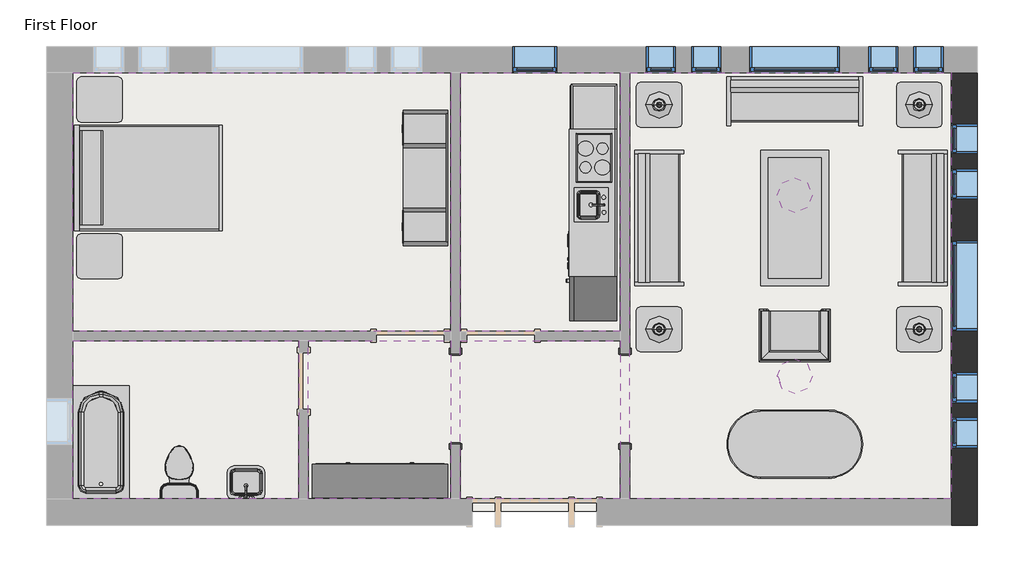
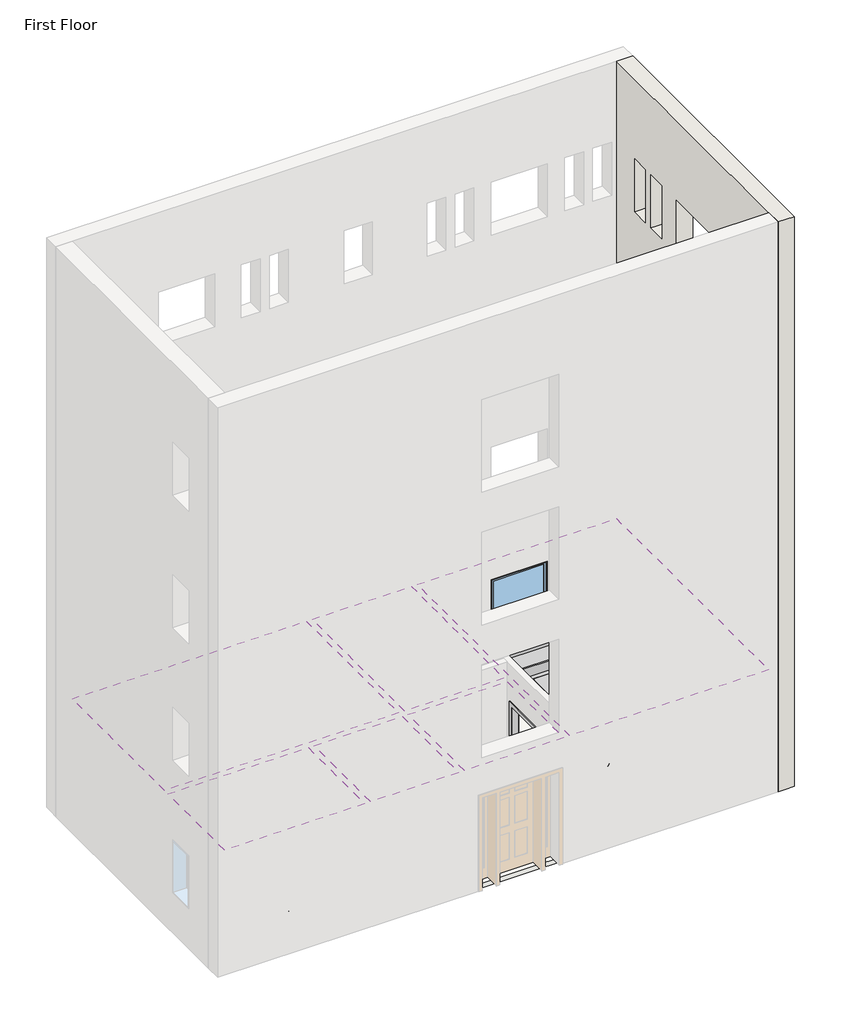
# One storey, part 2 of 2: 15 furniture elements, 11 windows, 6 coverings, 6 light fixtures, 3 flow terminals, 3 proxies, 1 slab, 1 wall.
"""IFC4 building model written with IfcOpenShell, lengths in millimetres."""

from ifc_helpers import new_model, si_unit, frame, origin, place, context, project, spatial, polyline, outline, extrude, faceted_brep, transform, mapped, element, save
from components import proxy_64a468c4, proxy_f44482cc, flow_terminal_0aeb31e3, toilet_domestic_3d_toilet_domestic_3d_f7549cf7, toilet_domestic_3d_toilet_domestic_3d_183bbd19, tub_rectangular_3d_tub_rectangular_3d_0be0b2e8, furniture_096e7f55, chair_corbu_chair_corbu_2764bdef, furniture_7c473f12, furniture_ddc78764, furniture_4ef38d96, furniture_cd93a443, furniture_8c0aa46a, furniture_3a588284, furniture_1befe2a2, pendant_disk_c68bffb6, table_lamp_1_100_watt_incandescent_6e8cd8b1, window_da97879f, window_d61ef850, window_60baf983, window_6eb97611

model = new_model("IFC4")

# Units and contexts
model_context = context("Model", 3, world=origin())
ifc_project = project(units=[si_unit("LENGTHUNIT", "METRE", prefix="MILLI")], contexts=[model_context])

# Site, building, storey
site = spatial("IfcSite", under=ifc_project)
building = spatial("IfcBuilding", under=site)
storey = spatial("IfcBuildingStorey", under=building, Name="First Floor", Elevation=0.0)

# Proxies
placement = place(None, origin())
proxy_shape = proxy_64a468c4(model_context)
element("IfcBuildingElementProxy", 1, Name="Kitchenette - Medium : 8'6\"", ObjectType="Kitchenette - Medium : 8'6\"", at=placement, inside=storey, context=model_context, shape_type="MappedRepresentation", body=[
    mapped(proxy_shape, transform((-3887.7589563, 8837.7956433, 0.0), x_axis=(0.0, -1.0, 0.0), y_axis=(1.0, 0.0, 0.0), z_axis=(0.0, 0.0, 1.0))),
])
proxy_2_shape = proxy_f44482cc(model_context)
element("IfcBuildingElementProxy", 2, Name="Opening-Cased : 48\" x 84\"", ObjectType="Opening-Cased : 48\" x 84\"", at=placement, inside=storey, context=model_context, shape_type="MappedRepresentation", body=[
    mapped(proxy_2_shape, transform((-3773.4589563, 5882.4203434, 0.0), x_axis=(0.0, 1.0, 0.0), y_axis=(-1.0, 0.0, 0.0), z_axis=(0.0, 0.0, 1.0))),
])
element("IfcBuildingElementProxy", 3, Name="Opening-Cased : 48\" x 84\"", ObjectType="Opening-Cased : 48\" x 84\"", at=placement, inside=storey, context=model_context, shape_type="MappedRepresentation", body=[
    mapped(proxy_2_shape, transform((-6059.4589563, 5866.04303, 0.0), x_axis=(0.0, -1.0, 0.0), y_axis=(1.0, 0.0, 0.0), z_axis=(0.0, 0.0, 1.0))),
])

# Coverings
element("IfcCovering", 4, ObjectType="GWB on Mtl. Stud", at=placement, inside=storey, context=model_context, shape_type="SweptSolid", body=[
    extrude(outline(polyline([(-11217.2464563, 10270.0191867), (-6122.9589563, 10270.0191867), (-6122.9589563, 6787.0441867), (-11217.2464563, 6787.0441867), (-11217.2464563, 10270.0191867)])), frame((0.0, 0.0, 2590.8), z_axis=(0.0, 0.0, 1.0), x_axis=(1.0, 0.0, 0.0)), (0.0, 0.0, 1.0), 107.95),
])
element("IfcCovering", 5, ObjectType="GWB on Mtl. Stud", at=placement, inside=storey, context=model_context, shape_type="SweptSolid", body=[
    extrude(outline(polyline([(-5995.9589563, 6787.0441867), (-5995.9589563, 10270.0191867), (-3836.9589563, 10270.0191867), (-3836.9589563, 6787.0441867), (-5995.9589563, 6787.0441867)])), frame((0.0, 0.0, 2590.8), z_axis=(0.0, 0.0, 1.0), x_axis=(1.0, 0.0, 0.0)), (0.0, 0.0, 1.0), 107.95),
])
element("IfcCovering", 6, ObjectType="GWB on Mtl. Stud", at=placement, inside=storey, context=model_context, shape_type="SweptSolid", body=[
    extrude(outline(polyline([(-3709.9589563, 4526.4441867), (-3709.9589563, 10270.0191867), (622.3285437, 10270.0191867), (622.3285437, 4526.4441867), (-3709.9589563, 4526.4441867)])), frame((0.0, 0.0, 2590.8), z_axis=(0.0, 0.0, 1.0), x_axis=(1.0, 0.0, 0.0)), (0.0, 0.0, 1.0), 107.95),
])
element("IfcCovering", 7, ObjectType="GWB on Mtl. Stud", at=placement, inside=storey, context=model_context, shape_type="SweptSolid", body=[
    extrude(outline(polyline([(-3836.9589563, 4526.4441867), (-5995.9589563, 4526.4441867), (-5995.9589563, 6660.0441867), (-3836.9589563, 6660.0441867), (-3836.9589563, 4526.4441867)])), frame((0.0, 0.0, 2590.8), z_axis=(0.0, 0.0, 1.0), x_axis=(1.0, 0.0, 0.0)), (0.0, 0.0, 1.0), 107.95),
])
element("IfcCovering", 8, ObjectType="GWB on Mtl. Stud", at=placement, inside=storey, context=model_context, shape_type="SweptSolid", body=[
    extrude(outline(polyline([(-6122.9589563, 4526.4441867), (-8042.2464563, 4526.4441867), (-8042.2464563, 6660.0441867), (-6122.9589563, 6660.0441867), (-6122.9589563, 4526.4441867)])), frame((0.0, 0.0, 2590.8), z_axis=(0.0, 0.0, 1.0), x_axis=(1.0, 0.0, 0.0)), (0.0, 0.0, 1.0), 107.95),
])
element("IfcCovering", 9, ObjectType="GWB on Mtl. Stud", at=placement, inside=storey, context=model_context, shape_type="SweptSolid", body=[
    extrude(outline(polyline([(-8169.2464563, 6660.0441867), (-8169.2464563, 4526.4441867), (-11217.2464563, 4526.4441867), (-11217.2464563, 6660.0441867), (-8169.2464563, 6660.0441867)])), frame((0.0, 0.0, 2590.8), z_axis=(0.0, 0.0, 1.0), x_axis=(1.0, 0.0, 0.0)), (0.0, 0.0, 1.0), 107.95),
])

# Flow terminals
flow_terminal_shape = flow_terminal_0aeb31e3(model_context)
element("IfcFlowTerminal", 10, ObjectType="Sink Vanity-Square : 24\" x 19\"", at=placement, inside=storey, context=model_context, shape_type="MappedRepresentation", body=[
    mapped(flow_terminal_shape, transform((-8864.7572157, 4706.5895878, 0.0), x_axis=(-1.0, 0.0, 0.0), y_axis=(0.0, -1.0, 0.0), z_axis=(0.0, 0.0, 1.0))),
])
toilet_domestic_3d_toilet_domestic_3d_shape = toilet_domestic_3d_toilet_domestic_3d_f7549cf7(model_context)
toilet_domestic_3d_toilet_domestic_3d_2_shape = toilet_domestic_3d_toilet_domestic_3d_183bbd19(model_context)
element("IfcFlowTerminal", 11, ObjectType="Toilet-Domestic-3D : Toilet-Domestic-3D", at=placement, inside=storey, context=model_context, shape_type="MappedRepresentation", body=[
    mapped(toilet_domestic_3d_toilet_domestic_3d_shape, transform((-9782.1466587, 4940.866411, 0.0), x_axis=(-1.0000000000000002, 0.0, 0.0), y_axis=(0.0, -1.0000000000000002, 0.0), z_axis=(0.0, 0.0, 1.0))),
    mapped(toilet_domestic_3d_toilet_domestic_3d_2_shape, transform((-9782.1466587, 4940.866411, 0.0), x_axis=(-1.0000000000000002, 0.0, 0.0), y_axis=(0.0, -1.0000000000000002, 0.0), z_axis=(0.0, 0.0, 1.0))),
])
tub_rectangular_3d_tub_rectangular_3d_shape = tub_rectangular_3d_tub_rectangular_3d_0be0b2e8(model_context)
element("IfcFlowTerminal", 12, ObjectType="Tub-Rectangular-3D : Tub-Rectangular-3D", at=placement, inside=storey, context=model_context, shape_type="MappedRepresentation", body=[
    mapped(tub_rectangular_3d_tub_rectangular_3d_shape, transform((-11393.4589563, 5637.0471554, 0.0), x_axis=(0.0, 1.0, 0.0), y_axis=(-1.0, 0.0, 0.0), z_axis=(0.0, 0.0, 1.0))),
])

# Furniture
furniture_shape = furniture_096e7f55(model_context)
element("IfcFurniture", 13, ObjectType="Bed-Shaker : Double 56\" x 78\"", at=placement, inside=storey, context=model_context, shape_type="MappedRepresentation", body=[
    mapped(furniture_shape, transform((-11183.1982802, 8871.8755561, 0.0), x_axis=(0.0, 1.0, 0.0), y_axis=(-1.0, 0.0, 0.0), z_axis=(0.0, 0.0, 1.0))),
])
chair_corbu_chair_corbu_shape = chair_corbu_chair_corbu_2764bdef(model_context)
element("IfcFurniture", 14, ObjectType="Chair-Corbu : Chair-Corbu", at=placement, inside=storey, context=model_context, shape_type="MappedRepresentation", body=[
    mapped(chair_corbu_chair_corbu_shape, transform((-914.0851858, 7193.4962359, 0.0), x_axis=(-1.0, 0.0, 0.0), y_axis=(0.0, -1.0, 0.0), z_axis=(0.0, 0.0, 1.0))),
])
furniture_2_shape = furniture_7c473f12(model_context)
element("IfcFurniture", 15, ObjectType="Dresser : 72\" x 60\" x 18\"", at=placement, inside=storey, context=model_context, shape_type="MappedRepresentation", body=[
    mapped(furniture_2_shape, transform((-7344.6522161, 4404.5812326, 0.0), x_axis=(-1.0, 0.0, 0.0), y_axis=(0.0, -1.0, 0.0), z_axis=(0.0, 0.0, 1.0))),
])
furniture_3_shape = furniture_ddc78764(model_context)
element("IfcFurniture", 16, ObjectType="Entertainment Center : 72\" x 72\" x 24\"", at=placement, inside=storey, context=model_context, shape_type="MappedRepresentation", body=[
    mapped(furniture_3_shape, transform((-6059.4589563, 8852.8255561, 0.0), x_axis=(0.0, -1.0, 0.0), y_axis=(1.0, 0.0, 0.0), z_axis=(0.0, 0.0, 1.0))),
])
furniture_4_shape = furniture_4ef38d96(model_context)
element("IfcFurniture", 17, ObjectType="Sofa : 72\"", at=placement, inside=storey, context=model_context, shape_type="MappedRepresentation", body=[
    mapped(furniture_4_shape, transform((-1557.8294481, 9741.2775883, 0.0), x_axis=(1.0, 0.0, 0.0), y_axis=(0.0, 1.0, 0.0), z_axis=(0.0, 0.0, 1.0))),
])
element("IfcFurniture", 18, ObjectType="Sofa : 72\"", at=placement, inside=storey, context=model_context, shape_type="MappedRepresentation", body=[
    mapped(furniture_4_shape, transform((93.5869453, 8383.0021785, 0.0), x_axis=(0.0, -1.0, 0.0), y_axis=(1.0, 0.0, 0.0), z_axis=(0.0, 0.0, 1.0))),
])
element("IfcFurniture", 19, ObjectType="Sofa : 72\"", at=placement, inside=storey, context=model_context, shape_type="MappedRepresentation", body=[
    mapped(furniture_4_shape, transform((-3170.104858, 8242.2611949, 0.0), x_axis=(0.0, 1.0, 0.0), y_axis=(-1.0, 0.0, 0.0), z_axis=(0.0, 0.0, 1.0))),
])
furniture_5_shape = furniture_cd93a443(model_context)
element("IfcFurniture", 20, ObjectType="Table-Coffee : 36\" x 72\" x 18\"", at=placement, inside=storey, context=model_context, shape_type="MappedRepresentation", body=[
    mapped(furniture_5_shape, transform((-1582.6700341, 8330.8974534, 0.0), x_axis=(0.0, -1.0, 0.0), y_axis=(1.0, 0.0, 0.0), z_axis=(0.0, 0.0, 1.0))),
])
furniture_6_shape = furniture_8c0aa46a(model_context)
element("IfcFurniture", 21, ObjectType="Table-Dining Oval : 36\" x 72\"", at=placement, inside=storey, context=model_context, shape_type="MappedRepresentation", body=[
    mapped(furniture_6_shape, transform((-1085.6392842, 5622.7300473, 0.0), x_axis=(1.0, 0.0, 0.0), y_axis=(0.0, 1.0, 0.0), z_axis=(0.0, 0.0, 1.0))),
])
furniture_7_shape = furniture_3a588284(model_context)
element("IfcFurniture", 22, ObjectType="Table-End : 24\" x 24\"", at=placement, inside=storey, context=model_context, shape_type="MappedRepresentation", body=[
    mapped(furniture_7_shape, transform((-119.5925866, 9684.2316867, 0.0), x_axis=(1.0, 0.0, 0.0), y_axis=(0.0, 1.0, 0.0), z_axis=(0.0, 0.0, 1.0))),
])
element("IfcFurniture", 23, ObjectType="Table-End : 24\" x 24\"", at=placement, inside=storey, context=model_context, shape_type="MappedRepresentation", body=[
    mapped(furniture_7_shape, transform((-3624.7925866, 9684.2316867, 0.0), x_axis=(1.0, 0.0, 0.0), y_axis=(0.0, 1.0, 0.0), z_axis=(0.0, 0.0, 1.0))),
])
element("IfcFurniture", 24, ObjectType="Table-End : 24\" x 24\"", at=placement, inside=storey, context=model_context, shape_type="MappedRepresentation", body=[
    mapped(furniture_7_shape, transform((-3624.7925866, 6660.0441867, 0.0), x_axis=(1.0, 0.0, 0.0), y_axis=(0.0, 1.0, 0.0), z_axis=(0.0, 0.0, 1.0))),
])
element("IfcFurniture", 25, ObjectType="Table-End : 24\" x 24\"", at=placement, inside=storey, context=model_context, shape_type="MappedRepresentation", body=[
    mapped(furniture_7_shape, transform((-119.5925866, 6660.0441867, 0.0), x_axis=(1.0, 0.0, 0.0), y_axis=(0.0, 1.0, 0.0), z_axis=(0.0, 0.0, 1.0))),
])
element("IfcFurniture", 26, ObjectType="Table-End : 24\" x 24\"", at=placement, inside=storey, context=model_context, shape_type="MappedRepresentation", body=[
    mapped(furniture_7_shape, transform((-11164.2346356, 9756.0737357, 0.0), x_axis=(1.0, 0.0, 0.0), y_axis=(0.0, 1.0, 0.0), z_axis=(0.0, 0.0, 1.0))),
])
furniture_8_shape = furniture_1befe2a2(model_context)
element("IfcFurniture", 27, ObjectType="Table-End : 24\" x 24\"", at=placement, inside=storey, context=model_context, shape_type="MappedRepresentation", body=[
    mapped(furniture_8_shape, transform((-11164.2346356, 7949.5773764, 0.0), x_axis=(1.0, 0.0, 0.0), y_axis=(0.0, 1.0, 0.0), z_axis=(0.0, 0.0, 1.0))),
])

# Light fixtures
pendant_disk_shape = pendant_disk_c68bffb6(model_context)
element("IfcLightFixture", 28, ObjectType="Pendant - Disk : 150 watt Incandescant", at=placement, inside=storey, context=model_context, shape_type="MappedRepresentation", body=[
    mapped(pendant_disk_shape, transform((-1487.4589563, 8617.4316867, 152.3999938), x_axis=(1.0, 0.0, 0.0), y_axis=(0.0, 1.0, 0.0), z_axis=(0.0, 0.0, 1.0))),
])
element("IfcLightFixture", 29, ObjectType="Pendant - Disk : 150 watt Incandescant", at=placement, inside=storey, context=model_context, shape_type="MappedRepresentation", body=[
    mapped(pendant_disk_shape, transform((-1487.4589563, 6179.0316867, 152.3999938), x_axis=(1.0, 0.0, 0.0), y_axis=(0.0, 1.0, 0.0), z_axis=(0.0, 0.0, 1.0))),
])
table_lamp_1_100_watt_incandescent_shape = table_lamp_1_100_watt_incandescent_6e8cd8b1(model_context)
element("IfcLightFixture", 30, ObjectType="Table Lamp 1 : 100 watt Incandescent", at=placement, inside=storey, context=model_context, shape_type="MappedRepresentation", body=[
    mapped(table_lamp_1_100_watt_incandescent_shape, transform((188.9410437, 6812.4441867, 381.0), x_axis=(1.0, 0.0, 0.0), y_axis=(0.0, 1.0, 0.0), z_axis=(0.0, 0.0, 1.0))),
])
element("IfcLightFixture", 31, ObjectType="Table Lamp 1 : 100 watt Incandescent", at=placement, inside=storey, context=model_context, shape_type="MappedRepresentation", body=[
    mapped(table_lamp_1_100_watt_incandescent_shape, transform((-3316.2589563, 9836.6316867, 381.0), x_axis=(1.0, 0.0, 0.0), y_axis=(0.0, 1.0, 0.0), z_axis=(0.0, 0.0, 1.0))),
])
element("IfcLightFixture", 32, ObjectType="Table Lamp 1 : 100 watt Incandescent", at=placement, inside=storey, context=model_context, shape_type="MappedRepresentation", body=[
    mapped(table_lamp_1_100_watt_incandescent_shape, transform((188.9410437, 9836.6316867, 381.0), x_axis=(1.0, 0.0, 0.0), y_axis=(0.0, 1.0, 0.0), z_axis=(0.0, 0.0, 1.0))),
])
element("IfcLightFixture", 33, ObjectType="Table Lamp 1 : 100 watt Incandescent", at=placement, inside=storey, context=model_context, shape_type="MappedRepresentation", body=[
    mapped(table_lamp_1_100_watt_incandescent_shape, transform((-3316.2589563, 6812.4441867, 381.0), x_axis=(1.0, 0.0, 0.0), y_axis=(0.0, 1.0, 0.0), z_axis=(0.0, 0.0, 1.0))),
])

# Slab
element("IfcSlab", 34, ObjectType="LW Concrete on Metal Deck", at=placement, inside=storey, context=model_context, shape_type="SweptSolid", body=[
    extrude(outline(polyline([(787.4285437, 10435.1191867), (787.4285437, 4361.3441867), (-11382.3464563, 4361.3441867), (-11382.3464563, 10435.1191867), (787.4285437, 10435.1191867)])), frame((0.0, 0.0, -104.775), z_axis=(0.0, 0.0, 1.0), x_axis=(1.0, 0.0, 0.0)), (0.0, 0.0, 1.0), 104.775),
])

# Wall
element("IfcWall", 35, ObjectType="Exterior - Brick on Mtl. Stud", at=placement, inside=storey, context=model_context, shape_type="Brep", body=[
    faceted_brep([(622.3285437, 10270.0191867, 0.0), (622.3285437, 4526.4441867, 0.0), (622.3285437, 4361.3441867, 0.0), (622.3285437, 4174.0191867, 0.0), (622.3285437, 4174.0191867, 13106.4), (622.3285437, 4526.4441867, 13106.4), (622.3285437, 10270.0191867, 13106.4), (622.3285437, 8007.8316867, 2133.6), (622.3285437, 6788.6316867, 2133.6), (622.3285437, 6788.6316867, 914.4), (622.3285437, 8007.8316867, 914.4), (622.3285437, 9582.6316867, 2133.6), (622.3285437, 9176.2316867, 2133.6), (622.3285437, 9176.2316867, 914.4), (622.3285437, 9582.6316867, 914.4), (622.3285437, 8973.0316867, 2133.6), (622.3285437, 8566.6316867, 2133.6), (622.3285437, 8566.6316867, 914.4), (622.3285437, 8973.0316867, 914.4), (622.3285437, 5213.8316867, 2133.6), (622.3285437, 5213.8316867, 914.4), (622.3285437, 5620.2316867, 914.4), (622.3285437, 5620.2316867, 2133.6), (622.3285437, 5823.4316867, 2133.6), (622.3285437, 5823.4316867, 914.4), (622.3285437, 6229.8316867, 914.4), (622.3285437, 6229.8316867, 2133.6), (622.3285437, 8007.8316867, 11277.6), (622.3285437, 6788.6316867, 11277.6), (622.3285437, 6788.6316867, 10058.4), (622.3285437, 8007.8316867, 10058.4), (622.3285437, 9582.6316867, 11277.6), (622.3285437, 9176.2316867, 11277.6), (622.3285437, 9176.2316867, 10058.4), (622.3285437, 9582.6316867, 10058.4), (622.3285437, 8973.0316867, 11277.6), (622.3285437, 8566.6316867, 11277.6), (622.3285437, 8566.6316867, 10058.4), (622.3285437, 8973.0316867, 10058.4), (622.3285437, 5213.8316867, 11277.6), (622.3285437, 5213.8316867, 10058.4), (622.3285437, 5620.2316867, 10058.4), (622.3285437, 5620.2316867, 11277.6), (622.3285437, 5823.4316867, 11277.6), (622.3285437, 5823.4316867, 10058.4), (622.3285437, 6229.8316867, 10058.4), (622.3285437, 6229.8316867, 11277.6), (622.3285437, 8007.8316867, 5181.6), (622.3285437, 6788.6316867, 5181.6), (622.3285437, 6788.6316867, 3962.4), (622.3285437, 8007.8316867, 3962.4), (622.3285437, 9582.6316867, 5181.6), (622.3285437, 9176.2316867, 5181.6), (622.3285437, 9176.2316867, 3962.4), (622.3285437, 9582.6316867, 3962.4), (622.3285437, 8973.0316867, 5181.6), (622.3285437, 8566.6316867, 5181.6), (622.3285437, 8566.6316867, 3962.4), (622.3285437, 8973.0316867, 3962.4), (622.3285437, 5213.8316867, 5181.6), (622.3285437, 5213.8316867, 3962.4), (622.3285437, 5620.2316867, 3962.4), (622.3285437, 5620.2316867, 5181.6), (622.3285437, 5823.4316867, 5181.6), (622.3285437, 5823.4316867, 3962.4), (622.3285437, 6229.8316867, 3962.4), (622.3285437, 6229.8316867, 5181.6), (622.3285437, 8007.8316867, 8229.6), (622.3285437, 6788.6316867, 8229.6), (622.3285437, 6788.6316867, 7010.4), (622.3285437, 8007.8316867, 7010.4), (622.3285437, 9582.6316867, 8229.6), (622.3285437, 9176.2316867, 8229.6), (622.3285437, 9176.2316867, 7010.4), (622.3285437, 9582.6316867, 7010.4), (622.3285437, 8973.0316867, 8229.6), (622.3285437, 8566.6316867, 8229.6), (622.3285437, 8566.6316867, 7010.4), (622.3285437, 8973.0316867, 7010.4), (622.3285437, 5213.8316867, 8229.6), (622.3285437, 5213.8316867, 7010.4), (622.3285437, 5620.2316867, 7010.4), (622.3285437, 5620.2316867, 8229.6), (622.3285437, 5823.4316867, 8229.6), (622.3285437, 5823.4316867, 7010.4), (622.3285437, 6229.8316867, 7010.4), (622.3285437, 6229.8316867, 8229.6), (974.7535437, 10270.0191867, 0.0), (974.7535437, 10270.0191867, 13106.4), (974.7535437, 4174.0191867, 13106.4), (974.7535437, 4174.0191867, 0.0), (974.7535437, 4361.3441867, 0.0), (974.7535437, 8007.8316867, 2133.6), (974.7535437, 8007.8316867, 914.4), (974.7535437, 6788.6316867, 914.4), (974.7535437, 6788.6316867, 2133.6), (974.7535437, 9582.6316867, 2133.6), (974.7535437, 9582.6316867, 914.4), (974.7535437, 9176.2316867, 914.4), (974.7535437, 9176.2316867, 2133.6), (974.7535437, 8973.0316867, 2133.6), (974.7535437, 8973.0316867, 914.4), (974.7535437, 8566.6316867, 914.4), (974.7535437, 8566.6316867, 2133.6), (974.7535437, 5213.8316867, 2133.6), (974.7535437, 5620.2316867, 2133.6), (974.7535437, 5620.2316867, 914.4), (974.7535437, 5213.8316867, 914.4), (974.7535437, 5823.4316867, 2133.6), (974.7535437, 6229.8316867, 2133.6), (974.7535437, 6229.8316867, 914.4), (974.7535437, 5823.4316867, 914.4), (974.7535437, 8007.8316867, 11277.6), (974.7535437, 8007.8316867, 10058.4), (974.7535437, 6788.6316867, 10058.4), (974.7535437, 6788.6316867, 11277.6), (974.7535437, 9582.6316867, 11277.6), (974.7535437, 9582.6316867, 10058.4), (974.7535437, 9176.2316867, 10058.4), (974.7535437, 9176.2316867, 11277.6), (974.7535437, 8973.0316867, 11277.6), (974.7535437, 8973.0316867, 10058.4), (974.7535437, 8566.6316867, 10058.4), (974.7535437, 8566.6316867, 11277.6), (974.7535437, 5213.8316867, 11277.6), (974.7535437, 5620.2316867, 11277.6), (974.7535437, 5620.2316867, 10058.4), (974.7535437, 5213.8316867, 10058.4), (974.7535437, 5823.4316867, 11277.6), (974.7535437, 6229.8316867, 11277.6), (974.7535437, 6229.8316867, 10058.4), (974.7535437, 5823.4316867, 10058.4), (974.7535437, 8007.8316867, 5181.6), (974.7535437, 8007.8316867, 3962.4), (974.7535437, 6788.6316867, 3962.4), (974.7535437, 6788.6316867, 5181.6), (974.7535437, 9582.6316867, 5181.6), (974.7535437, 9582.6316867, 3962.4), (974.7535437, 9176.2316867, 3962.4), (974.7535437, 9176.2316867, 5181.6), (974.7535437, 8973.0316867, 5181.6), (974.7535437, 8973.0316867, 3962.4), (974.7535437, 8566.6316867, 3962.4), (974.7535437, 8566.6316867, 5181.6), (974.7535437, 5213.8316867, 5181.6), (974.7535437, 5620.2316867, 5181.6), (974.7535437, 5620.2316867, 3962.4), (974.7535437, 5213.8316867, 3962.4), (974.7535437, 5823.4316867, 5181.6), (974.7535437, 6229.8316867, 5181.6), (974.7535437, 6229.8316867, 3962.4), (974.7535437, 5823.4316867, 3962.4), (974.7535437, 8007.8316867, 8229.6), (974.7535437, 8007.8316867, 7010.4), (974.7535437, 6788.6316867, 7010.4), (974.7535437, 6788.6316867, 8229.6), (974.7535437, 9582.6316867, 8229.6), (974.7535437, 9582.6316867, 7010.4), (974.7535437, 9176.2316867, 7010.4), (974.7535437, 9176.2316867, 8229.6), (974.7535437, 8973.0316867, 8229.6), (974.7535437, 8973.0316867, 7010.4), (974.7535437, 8566.6316867, 7010.4), (974.7535437, 8566.6316867, 8229.6), (974.7535437, 5213.8316867, 8229.6), (974.7535437, 5620.2316867, 8229.6), (974.7535437, 5620.2316867, 7010.4), (974.7535437, 5213.8316867, 7010.4), (974.7535437, 5823.4316867, 8229.6), (974.7535437, 6229.8316867, 8229.6), (974.7535437, 6229.8316867, 7010.4), (974.7535437, 5823.4316867, 7010.4), (787.4285437, 4174.0191867, 0.0), (787.4285437, 10270.0191867, 0.0), (787.4285437, 4361.3441867, 0.0)], [[[0, 1, 2, 3, 4, 5, 6], [7, 8, 9, 10], [11, 12, 13, 14], [15, 16, 17, 18], [19, 20, 21, 22], [23, 24, 25, 26], [27, 28, 29, 30], [31, 32, 33, 34], [35, 36, 37, 38], [39, 40, 41, 42], [43, 44, 45, 46], [47, 48, 49, 50], [51, 52, 53, 54], [55, 56, 57, 58], [59, 60, 61, 62], [63, 64, 65, 66], [67, 68, 69, 70], [71, 72, 73, 74], [75, 76, 77, 78], [79, 80, 81, 82], [83, 84, 85, 86]], [[87, 88, 89, 90, 91], [92, 93, 94, 95], [96, 97, 98, 99], [100, 101, 102, 103], [104, 105, 106, 107], [108, 109, 110, 111], [112, 113, 114, 115], [116, 117, 118, 119], [120, 121, 122, 123], [124, 125, 126, 127], [128, 129, 130, 131], [132, 133, 134, 135], [136, 137, 138, 139], [140, 141, 142, 143], [144, 145, 146, 147], [148, 149, 150, 151], [152, 153, 154, 155], [156, 157, 158, 159], [160, 161, 162, 163], [164, 165, 166, 167], [168, 169, 170, 171]], [[6, 5, 4, 89, 88]], [[4, 3, 172, 90, 89]], [[0, 6, 88, 87, 173]], [[173, 87, 91, 174]], [[3, 2, 174, 172]], [[174, 91, 90, 172]], [[2, 1, 0, 173, 174]], [[93, 92, 7, 10]], [[94, 93, 10, 9]], [[95, 94, 9, 8]], [[92, 95, 8, 7]], [[97, 96, 11, 14]], [[98, 97, 14, 13]], [[99, 98, 13, 12]], [[96, 99, 12, 11]], [[101, 100, 15, 18]], [[102, 101, 18, 17]], [[103, 102, 17, 16]], [[100, 103, 16, 15]], [[20, 19, 104, 107]], [[21, 20, 107, 106]], [[22, 21, 106, 105]], [[19, 22, 105, 104]], [[24, 23, 108, 111]], [[25, 24, 111, 110]], [[26, 25, 110, 109]], [[23, 26, 109, 108]], [[113, 112, 27, 30]], [[114, 113, 30, 29]], [[115, 114, 29, 28]], [[112, 115, 28, 27]], [[117, 116, 31, 34]], [[118, 117, 34, 33]], [[119, 118, 33, 32]], [[116, 119, 32, 31]], [[121, 120, 35, 38]], [[122, 121, 38, 37]], [[123, 122, 37, 36]], [[120, 123, 36, 35]], [[40, 39, 124, 127]], [[41, 40, 127, 126]], [[42, 41, 126, 125]], [[39, 42, 125, 124]], [[44, 43, 128, 131]], [[45, 44, 131, 130]], [[46, 45, 130, 129]], [[43, 46, 129, 128]], [[133, 132, 47, 50]], [[134, 133, 50, 49]], [[135, 134, 49, 48]], [[132, 135, 48, 47]], [[137, 136, 51, 54]], [[138, 137, 54, 53]], [[139, 138, 53, 52]], [[136, 139, 52, 51]], [[141, 140, 55, 58]], [[142, 141, 58, 57]], [[143, 142, 57, 56]], [[140, 143, 56, 55]], [[60, 59, 144, 147]], [[61, 60, 147, 146]], [[62, 61, 146, 145]], [[59, 62, 145, 144]], [[64, 63, 148, 151]], [[65, 64, 151, 150]], [[66, 65, 150, 149]], [[63, 66, 149, 148]], [[153, 152, 67, 70]], [[154, 153, 70, 69]], [[155, 154, 69, 68]], [[152, 155, 68, 67]], [[157, 156, 71, 74]], [[158, 157, 74, 73]], [[159, 158, 73, 72]], [[156, 159, 72, 71]], [[161, 160, 75, 78]], [[162, 161, 78, 77]], [[163, 162, 77, 76]], [[160, 163, 76, 75]], [[80, 79, 164, 167]], [[81, 80, 167, 166]], [[82, 81, 166, 165]], [[79, 82, 165, 164]], [[84, 83, 168, 171]], [[85, 84, 171, 170]], [[86, 85, 170, 169]], [[83, 86, 169, 168]]]),
])

# Windows
window_shape = window_da97879f(model_context)
element("IfcWindow", 36, ObjectType="Fixed : 16\" x 48\"", at=placement, inside=storey, context=model_context, shape_type="MappedRepresentation", body=[
    mapped(window_shape, transform((-3328.9589563, 10446.2316867, 0.0), x_axis=(-1.0, 0.0, 0.0), y_axis=(0.0, -1.0, 0.0), z_axis=(0.0, 0.0, 1.0))),
])
element("IfcWindow", 37, ObjectType="Fixed : 16\" x 48\"", at=placement, inside=storey, context=model_context, shape_type="MappedRepresentation", body=[
    mapped(window_shape, transform((-2719.3589563, 10446.2316867, 0.0), x_axis=(-1.0, 0.0, 0.0), y_axis=(0.0, -1.0, 0.0), z_axis=(0.0, 0.0, 1.0))),
])
element("IfcWindow", 38, ObjectType="Fixed : 16\" x 48\"", at=placement, inside=storey, context=model_context, shape_type="MappedRepresentation", body=[
    mapped(window_shape, transform((798.5410437, 9417.5316867, 0.0), x_axis=(0.0, 1.0, 0.0), y_axis=(-1.0, 0.0, 0.0), z_axis=(0.0, 0.0, 1.0))),
])
element("IfcWindow", 39, ObjectType="Fixed : 16\" x 48\"", at=placement, inside=storey, context=model_context, shape_type="MappedRepresentation", body=[
    mapped(window_shape, transform((798.5410437, 8807.9316867, 0.0), x_axis=(0.0, 1.0, 0.0), y_axis=(-1.0, 0.0, 0.0), z_axis=(0.0, 0.0, 1.0))),
])
window_2_shape = window_d61ef850(model_context)
element("IfcWindow", 40, ObjectType="Fixed : 16\" x 48\"", at=placement, inside=storey, context=model_context, shape_type="MappedRepresentation", body=[
    mapped(window_2_shape, transform((354.0410437, 10446.2316867, 0.0), x_axis=(1.0, 0.0, 0.0), y_axis=(0.0, 1.0, 0.0), z_axis=(0.0, 0.0, 1.0))),
])
element("IfcWindow", 41, ObjectType="Fixed : 16\" x 48\"", at=placement, inside=storey, context=model_context, shape_type="MappedRepresentation", body=[
    mapped(window_2_shape, transform((-255.5589563, 10446.2316867, 0.0), x_axis=(1.0, 0.0, 0.0), y_axis=(0.0, 1.0, 0.0), z_axis=(0.0, 0.0, 1.0))),
])
element("IfcWindow", 42, ObjectType="Fixed : 16\" x 48\"", at=placement, inside=storey, context=model_context, shape_type="MappedRepresentation", body=[
    mapped(window_2_shape, transform((798.5410437, 5378.9316867, 0.0), x_axis=(0.0, -1.0, 0.0), y_axis=(1.0, 0.0, 0.0), z_axis=(0.0, 0.0, 1.0))),
])
element("IfcWindow", 43, ObjectType="Fixed : 16\" x 48\"", at=placement, inside=storey, context=model_context, shape_type="MappedRepresentation", body=[
    mapped(window_2_shape, transform((798.5410437, 5988.5316867, 0.0), x_axis=(0.0, -1.0, 0.0), y_axis=(1.0, 0.0, 0.0), z_axis=(0.0, 0.0, 1.0))),
])
window_3_shape = window_60baf983(model_context)
element("IfcWindow", 44, ObjectType="Fixed : 24\" x 48\"", at=placement, inside=storey, context=model_context, shape_type="MappedRepresentation", body=[
    mapped(window_3_shape, transform((-5030.7589563, 10446.2316867, 0.0), x_axis=(-1.0, 0.0, 0.0), y_axis=(0.0, -1.0, 0.0), z_axis=(0.0, 0.0, 1.0))),
])
window_4_shape = window_6eb97611(model_context)
element("IfcWindow", 45, ObjectType="Fixed : 48\" x 48\"", at=placement, inside=storey, context=model_context, shape_type="MappedRepresentation", body=[
    mapped(window_4_shape, transform((-1525.5589563, 10446.2316867, 0.0), x_axis=(-1.0, 0.0, 0.0), y_axis=(0.0, -1.0, 0.0), z_axis=(0.0, 0.0, 1.0))),
])
element("IfcWindow", 46, ObjectType="Fixed : 48\" x 48\"", at=placement, inside=storey, context=model_context, shape_type="MappedRepresentation", body=[
    mapped(window_4_shape, transform((798.5410437, 7436.3316867, 0.0), x_axis=(0.0, 1.0, 0.0), y_axis=(-1.0, 0.0, 0.0), z_axis=(0.0, 0.0, 1.0))),
])

save(model, "model.ifc")
